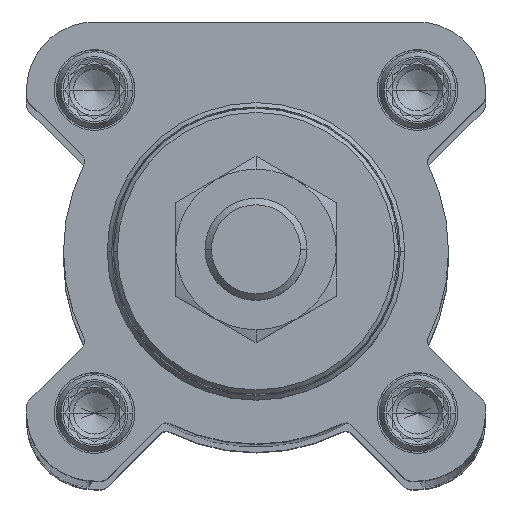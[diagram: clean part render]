
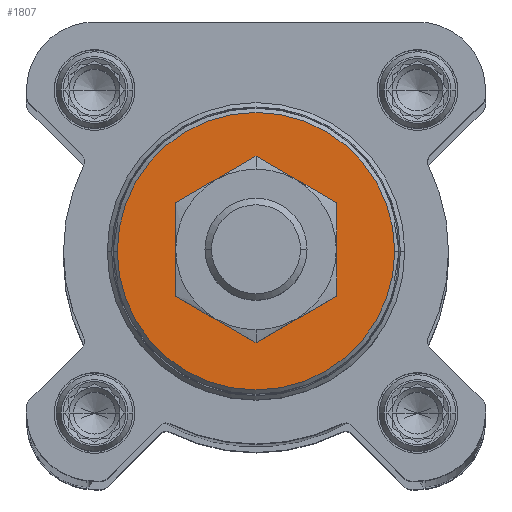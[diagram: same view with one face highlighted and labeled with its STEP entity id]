
A CAD part, top view. The second image highlights one B-rep face of the part: STEP entity #1807.
In plain terms, the highlighted planar face has unit normal (0, 0, 1).
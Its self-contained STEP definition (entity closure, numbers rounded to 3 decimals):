
#623 = AXIS2_PLACEMENT_3D ( 'NONE', #5630, #17659, #10081 ) ;
#636 = AXIS2_PLACEMENT_3D ( 'NONE', #18194, #3094, #12909 ) ;
#1400 = EDGE_CURVE ( 'NONE', #11580, #12921, #18113, .T. ) ;
#1807 = ADVANCED_FACE ( 'NONE', ( #2327, #17345 ), #8361, .F. ) ;
#2258 = DIRECTION ( 'NONE',  ( -1., 0., 0. ) ) ;
#2327 = FACE_OUTER_BOUND ( 'NONE', #18844, .T. ) ;
#3094 = DIRECTION ( 'NONE',  ( 0., 0., -1. ) ) ;
#3633 = DIRECTION ( 'NONE',  ( 0., 0., -1. ) ) ;
#4122 = CIRCLE ( 'NONE', #623, 8. ) ;
#4427 = CIRCLE ( 'NONE', #11373, 16.32 ) ;
#4971 = EDGE_CURVE ( 'NONE', #8730, #12323, #15225, .T. ) ;
#5114 = DIRECTION ( 'NONE',  ( -1., 0., 0. ) ) ;
#5521 = DIRECTION ( 'NONE',  ( 0., 0., -1. ) ) ;
#5542 = EDGE_CURVE ( 'NONE', #12323, #8730, #4122, .T. ) ;
#5630 = CARTESIAN_POINT ( 'NONE',  ( 0., 0., 21.3 ) ) ;
#6228 = EDGE_LOOP ( 'NONE', ( #15701, #11359 ) ) ;
#6486 = ORIENTED_EDGE ( 'NONE', *, *, #1400, .F. ) ;
#8361 = PLANE ( 'NONE',  #17317 ) ;
#8730 = VERTEX_POINT ( 'NONE', #14740 ) ;
#10077 = EDGE_CURVE ( 'NONE', #12921, #11580, #4427, .T. ) ;
#10081 = DIRECTION ( 'NONE',  ( -1., 0., 0. ) ) ;
#10754 = CARTESIAN_POINT ( 'NONE',  ( 0., 0., 21.3 ) ) ;
#11359 = ORIENTED_EDGE ( 'NONE', *, *, #5542, .T. ) ;
#11373 = AXIS2_PLACEMENT_3D ( 'NONE', #10754, #13953, #5114 ) ;
#11580 = VERTEX_POINT ( 'NONE', #15713 ) ;
#12323 = VERTEX_POINT ( 'NONE', #13480 ) ;
#12901 = CARTESIAN_POINT ( 'NONE',  ( -16.32, 0., 21.3 ) ) ;
#12909 = DIRECTION ( 'NONE',  ( -1., 0., 0. ) ) ;
#12921 = VERTEX_POINT ( 'NONE', #12901 ) ;
#13480 = CARTESIAN_POINT ( 'NONE',  ( 8., 0., 21.3 ) ) ;
#13953 = DIRECTION ( 'NONE',  ( 0., 0., -1. ) ) ;
#14147 = CARTESIAN_POINT ( 'NONE',  ( 0., 0., 21.3 ) ) ;
#14560 = CARTESIAN_POINT ( 'NONE',  ( 0., 0., 21.3 ) ) ;
#14740 = CARTESIAN_POINT ( 'NONE',  ( -8., 0., 21.3 ) ) ;
#15225 = CIRCLE ( 'NONE', #636, 8. ) ;
#15570 = AXIS2_PLACEMENT_3D ( 'NONE', #14560, #5521, #2258 ) ;
#15701 = ORIENTED_EDGE ( 'NONE', *, *, #4971, .T. ) ;
#15713 = CARTESIAN_POINT ( 'NONE',  ( 16.32, 0., 21.3 ) ) ;
#17158 = ORIENTED_EDGE ( 'NONE', *, *, #10077, .F. ) ;
#17317 = AXIS2_PLACEMENT_3D ( 'NONE', #14147, #3633, #17621 ) ;
#17345 = FACE_BOUND ( 'NONE', #6228, .T. ) ;
#17621 = DIRECTION ( 'NONE',  ( 0., -1., 0. ) ) ;
#17659 = DIRECTION ( 'NONE',  ( 0., 0., -1. ) ) ;
#18113 = CIRCLE ( 'NONE', #15570, 16.32 ) ;
#18194 = CARTESIAN_POINT ( 'NONE',  ( 0., 0., 21.3 ) ) ;
#18844 = EDGE_LOOP ( 'NONE', ( #17158, #6486 ) ) ;
